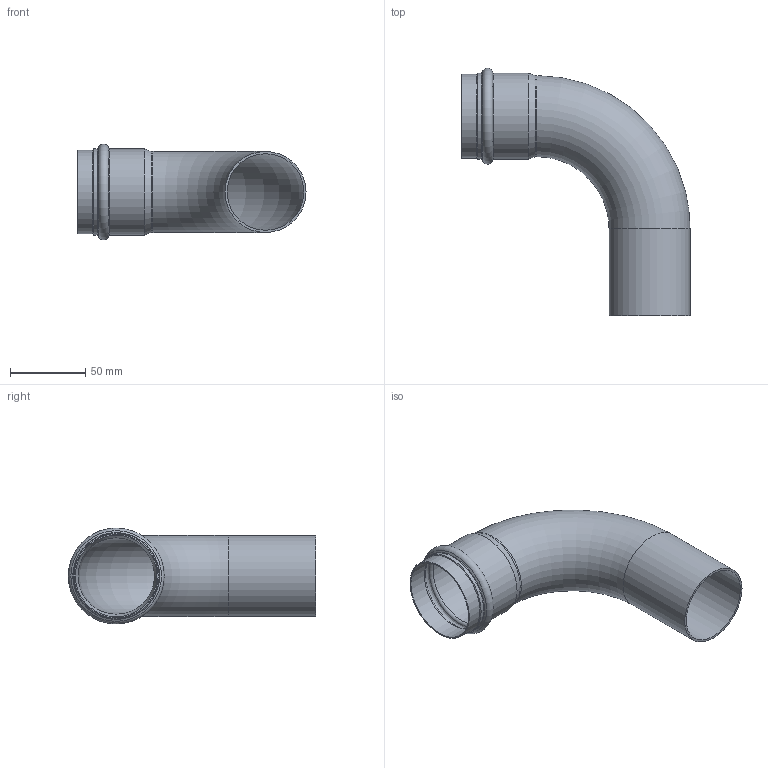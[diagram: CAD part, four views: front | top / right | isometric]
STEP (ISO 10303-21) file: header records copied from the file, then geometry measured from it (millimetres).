
FILE_DESCRIPTION((''),'2;1');
FILE_NAME('G:\Nirosan-Schmiedefeld\Technics\CAD\Bauteile VA\054\69001A54(2).stp','2008-08-27T11:51:35',('herberg'),(''),'Autodesk Inventor 2009','Autodesk Inventor 2009','');
FILE_SCHEMA(('AUTOMOTIVE_DESIGN { 1 0 10303 214 1 1 1 1 }'));
Length unit declared in the file: millimetre
Products named in the file (1): 69001A54(2)
Bounding box: 152 x 164.94 x 63.89 mm (x, y, z)
Volume: 56406.1 mm3; surface area: 77313.8 mm2
Topology: 1 solids, 1 shells, 24 faces, 48 edges, 26 vertices
Faces by surface type: cylinder 9, torus 5, cone 5, bspline 3, plane 2
Full cylindrical faces by diameter (mm): 51 x2, 54 x2, 54.35 x2, 55.95 x1, 57.35 x2
Entity records: 670 total; most frequent: CARTESIAN_POINT 241, DIRECTION 92, ORIENTED_EDGE 48, EDGE_LOOP 48, AXIS2_PLACEMENT_3D 46, VERTEX_POINT 24, CIRCLE 24, EDGE_CURVE 24
